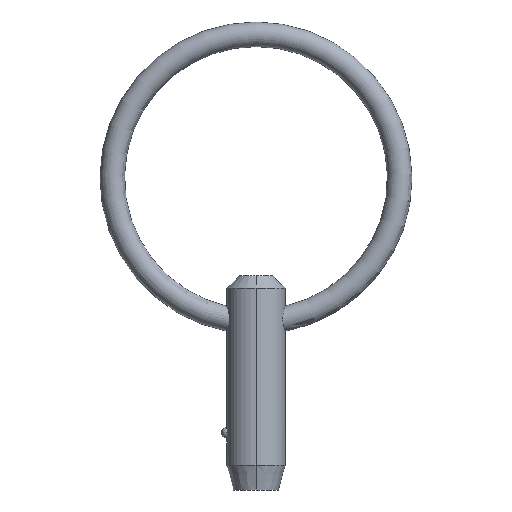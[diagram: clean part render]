
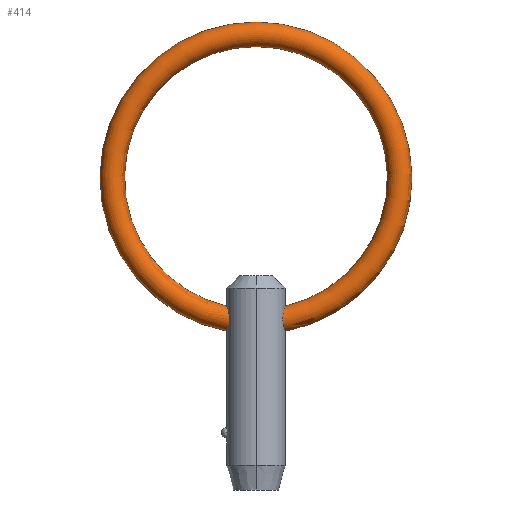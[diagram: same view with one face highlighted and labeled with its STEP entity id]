
A CAD part, left-side view. The second image highlights one B-rep face of the part: STEP entity #414.
In plain terms, the highlighted toroidal (fillet/blend) face has major radius 11.7 mm and minor radius 1 mm.
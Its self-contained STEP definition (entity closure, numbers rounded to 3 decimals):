
#1 = CARTESIAN_POINT ( 'NONE',  ( -0.514, -2.327, 7.969 ) ) ;
#20 = ORIENTED_EDGE ( 'NONE', *, *, #154, .F. ) ;
#23 = EDGE_CURVE ( 'NONE', #83, #275, #105, .T. ) ;
#26 = DIRECTION ( 'NONE',  ( 0., 0., -1. ) ) ;
#29 = VERTEX_POINT ( 'NONE', #220 ) ;
#36 = CARTESIAN_POINT ( 'NONE',  ( -0.885, -2.21, 8.337 ) ) ;
#38 = CARTESIAN_POINT ( 'NONE',  ( 0., 2.38, 9.888 ) ) ;
#40 = CARTESIAN_POINT ( 'NONE',  ( -0.626, -2.298, 8.042 ) ) ;
#44 = CARTESIAN_POINT ( 'NONE',  ( -0.793, 2.246, 9.472 ) ) ;
#53 = EDGE_CURVE ( 'NONE', #182, #29, #71, .T. ) ;
#71 = CIRCLE ( 'NONE', #253, 10.7 ) ;
#72 = CARTESIAN_POINT ( 'NONE',  ( -0.991, -2.164, 9.121 ) ) ;
#74 = CARTESIAN_POINT ( 'NONE',  ( -0.88, -2.219, 9.38 ) ) ;
#77 = FACE_OUTER_BOUND ( 'NONE', #458, .T. ) ;
#80 = CARTESIAN_POINT ( 'NONE',  ( -0.512, 2.328, 7.968 ) ) ;
#81 = CARTESIAN_POINT ( 'NONE',  ( 0., -2.38, 7.845 ) ) ;
#83 = VERTEX_POINT ( 'NONE', #102 ) ;
#89 = DIRECTION ( 'NONE',  ( 0., 0., -1. ) ) ;
#100 = EDGE_CURVE ( 'NONE', #182, #83, #388, .T. ) ;
#102 = CARTESIAN_POINT ( 'NONE',  ( 0., 2.38, 7.845 ) ) ;
#105 = CIRCLE ( 'NONE', #127, 12.7 ) ;
#106 = CARTESIAN_POINT ( 'NONE',  ( -0.613, -2.302, 9.666 ) ) ;
#108 = CARTESIAN_POINT ( 'NONE',  ( -0.134, -2.38, 9.888 ) ) ;
#111 = CARTESIAN_POINT ( 'NONE',  ( -0.507, 2.329, 9.745 ) ) ;
#115 = CARTESIAN_POINT ( 'NONE',  ( -0.614, 2.301, 9.665 ) ) ;
#119 = CARTESIAN_POINT ( 'NONE',  ( -0.267, 2.368, 7.871 ) ) ;
#127 = AXIS2_PLACEMENT_3D ( 'NONE', #361, #184, #26 ) ;
#148 = DIRECTION ( 'NONE',  ( 1., 0., 0. ) ) ;
#152 = CARTESIAN_POINT ( 'NONE',  ( -0.505, -2.329, 9.746 ) ) ;
#154 = EDGE_CURVE ( 'NONE', #275, #29, #426, .T. ) ;
#158 = CARTESIAN_POINT ( 'NONE',  ( -0.957, 2.179, 8.522 ) ) ;
#165 = CARTESIAN_POINT ( 'NONE',  ( 0., 2.38, 7.845 ) ) ;
#179 = ORIENTED_EDGE ( 'NONE', *, *, #53, .T. ) ;
#182 = VERTEX_POINT ( 'NONE', #192 ) ;
#184 = DIRECTION ( 'NONE',  ( 1., 0., 0. ) ) ;
#190 = CARTESIAN_POINT ( 'NONE',  ( 0., -2.38, 9.888 ) ) ;
#192 = CARTESIAN_POINT ( 'NONE',  ( 0., 2.38, 9.888 ) ) ;
#214 = CARTESIAN_POINT ( 'NONE',  ( 0., 0., 20.32 ) ) ;
#220 = CARTESIAN_POINT ( 'NONE',  ( 0., -2.38, 9.888 ) ) ;
#230 = CARTESIAN_POINT ( 'NONE',  ( -0.975, 2.171, 8.587 ) ) ;
#241 = CARTESIAN_POINT ( 'NONE',  ( -1.001, 2.159, 8.784 ) ) ;
#246 = DIRECTION ( 'NONE',  ( 1., 0., 0. ) ) ;
#253 = AXIS2_PLACEMENT_3D ( 'NONE', #433, #148, #258 ) ;
#258 = DIRECTION ( 'NONE',  ( 0., 0., -1. ) ) ;
#267 = CARTESIAN_POINT ( 'NONE',  ( -0.997, 2.161, 8.718 ) ) ;
#275 = VERTEX_POINT ( 'NONE', #81 ) ;
#276 = CARTESIAN_POINT ( 'NONE',  ( -0.864, 2.218, 9.361 ) ) ;
#297 = CARTESIAN_POINT ( 'NONE',  ( -0.982, -2.169, 8.585 ) ) ;
#299 = CARTESIAN_POINT ( 'NONE',  ( -0.267, -2.368, 9.857 ) ) ;
#307 = CARTESIAN_POINT ( 'NONE',  ( -0.811, 2.24, 8.225 ) ) ;
#309 = CARTESIAN_POINT ( 'NONE',  ( -0.626, 2.298, 8.042 ) ) ;
#315 = AXIS2_PLACEMENT_3D ( 'NONE', #214, #246, #89 ) ;
#321 = ORIENTED_EDGE ( 'NONE', *, *, #100, .F. ) ;
#333 = CARTESIAN_POINT ( 'NONE',  ( -0.811, -2.24, 8.226 ) ) ;
#336 = CARTESIAN_POINT ( 'NONE',  ( -1.004, -2.158, 8.719 ) ) ;
#354 = CARTESIAN_POINT ( 'NONE',  ( -0.133, -2.38, 7.845 ) ) ;
#361 = CARTESIAN_POINT ( 'NONE',  ( 0., 0., 20.32 ) ) ;
#367 = CARTESIAN_POINT ( 'NONE',  ( -0.268, -2.368, 7.871 ) ) ;
#371 = CARTESIAN_POINT ( 'NONE',  ( -0.996, 2.162, 8.985 ) ) ;
#388 = B_SPLINE_CURVE_WITH_KNOTS ( 'NONE', 3,
 ( #38, #442, #443, #111, #115, #44, #276, #404, #371, #241, #267, #230, #158, #406, #307, #309, #80, #119, #449, #165 ),
 .UNSPECIFIED., .F., .F.,
 ( 4, 2, 2, 2, 2, 2, 2, 2, 2, 4 ),
 ( 0.004, 0.004, 0.005, 0.005, 0.005, 0.006, 0.006, 0.006, 0.007, 0.007 ),
 .UNSPECIFIED. ) ;
#404 = CARTESIAN_POINT ( 'NONE',  ( -0.966, 2.176, 9.116 ) ) ;
#406 = CARTESIAN_POINT ( 'NONE',  ( -0.885, 2.21, 8.337 ) ) ;
#414 = ADVANCED_FACE ( 'NONE', ( #77 ), #460, .T. ) ;
#426 = B_SPLINE_CURVE_WITH_KNOTS ( 'NONE', 3,
 ( #457, #354, #367, #1, #40, #333, #36, #297, #336, #72, #74, #106, #152, #299, #108, #190 ),
 .UNSPECIFIED., .F., .F.,
 ( 4, 2, 2, 2, 2, 2, 2, 4 ),
 ( 0.006, 0.006, 0.007, 0.007, 0.007, 0.008, 0.009, 0.009 ),
 .UNSPECIFIED. ) ;
#433 = CARTESIAN_POINT ( 'NONE',  ( 0., 0., 20.32 ) ) ;
#439 = ORIENTED_EDGE ( 'NONE', *, *, #23, .F. ) ;
#442 = CARTESIAN_POINT ( 'NONE',  ( -0.133, 2.38, 9.888 ) ) ;
#443 = CARTESIAN_POINT ( 'NONE',  ( -0.267, 2.368, 9.857 ) ) ;
#449 = CARTESIAN_POINT ( 'NONE',  ( -0.133, 2.38, 7.845 ) ) ;
#457 = CARTESIAN_POINT ( 'NONE',  ( 0., -2.38, 7.845 ) ) ;
#458 = EDGE_LOOP ( 'NONE', ( #439, #321, #179, #20 ) ) ;
#460 = TOROIDAL_SURFACE ( 'NONE', #315, 11.7, 1. ) ;
